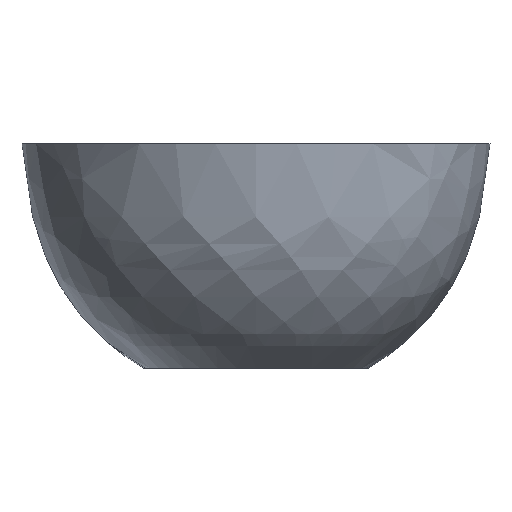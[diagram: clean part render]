
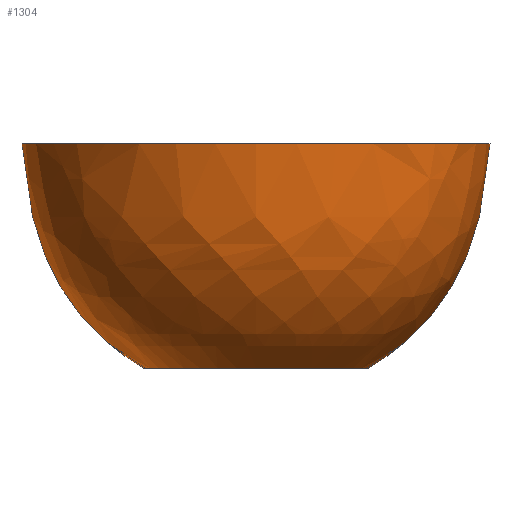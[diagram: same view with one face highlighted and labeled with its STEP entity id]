
A CAD part, left-side view. The second image highlights one B-rep face of the part: STEP entity #1304.
In plain terms, the highlighted free-form (B-spline) face has degree [3, 3] with [4, 4] control points.
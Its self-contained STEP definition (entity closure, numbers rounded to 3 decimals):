
#8 = DIRECTION ( 'NONE',  ( 0., 0., -1. ) ) ;
#15 = VERTEX_POINT ( 'NONE', #1899 ) ;
#57 = CARTESIAN_POINT ( 'NONE',  ( 0., 33.549, 116.158 ) ) ;
#91 = AXIS2_PLACEMENT_3D ( 'NONE', #1005, #1764, #272 ) ;
#122 = CARTESIAN_POINT ( 'NONE',  ( 0., 85.033, -121.941 ) ) ;
#129 = CARTESIAN_POINT ( 'NONE',  ( 0., 33.549, -116.158 ) ) ;
#136 = CARTESIAN_POINT ( 'NONE',  ( 0., 120., 125. ) ) ;
#271 = B_SPLINE_CURVE_WITH_KNOTS ( 'NONE', 3,
 ( #136, #876, #1498, #1786 ),
 .UNSPECIFIED., .F., .F.,
 ( 4, 4 ),
 ( 0., 1. ),
 .UNSPECIFIED. ) ;
#272 = DIRECTION ( 'NONE',  ( 0., 0., -1. ) ) ;
#408 = CARTESIAN_POINT ( 'NONE',  ( 0., 120., 125. ) ) ;
#477 = ORIENTED_EDGE ( 'NONE', *, *, #1662, .F. ) ;
#496 = CARTESIAN_POINT ( 'NONE',  ( 0., 85.033, -121.941 ) ) ;
#499 = CIRCLE ( 'NONE', #774, 60. ) ;
#504 = CARTESIAN_POINT ( 'NONE',  ( 250., 120., 125. ) ) ;
#533 = EDGE_CURVE ( 'NONE', #1041, #1588, #759, .T. ) ;
#634 = EDGE_CURVE ( 'NONE', #1456, #15, #499, .T. ) ;
#662 = CARTESIAN_POINT ( 'NONE',  ( 0., 33.549, -116.158 ) ) ;
#702 = ORIENTED_EDGE ( 'NONE', *, *, #842, .T. ) ;
#747 = DIRECTION ( 'NONE',  ( 0., -1., 0. ) ) ;
#759 = CIRCLE ( 'NONE', #91, 125. ) ;
#774 = AXIS2_PLACEMENT_3D ( 'NONE', #1800, #747, #8 ) ;
#794 = CARTESIAN_POINT ( 'NONE',  ( 0., 85.033, 121.941 ) ) ;
#809 = CARTESIAN_POINT ( 'NONE',  ( 0., 120., -125. ) ) ;
#825 = ORIENTED_EDGE ( 'NONE', *, *, #634, .F. ) ;
#842 = EDGE_CURVE ( 'NONE', #1588, #15, #271, .T. ) ;
#876 = CARTESIAN_POINT ( 'NONE',  ( 0., 85.033, 121.941 ) ) ;
#945 = CARTESIAN_POINT ( 'NONE',  ( 232.315, 33.549, 116.158 ) ) ;
#1005 = CARTESIAN_POINT ( 'NONE',  ( 0., 120., 0. ) ) ;
#1041 = VERTEX_POINT ( 'NONE', #1241 ) ;
#1042 = B_SPLINE_CURVE_WITH_KNOTS ( 'NONE', 3,
 ( #1455, #122, #129, #1616 ),
 .UNSPECIFIED., .F., .F.,
 ( 4, 4 ),
 ( 0., 1. ),
 .UNSPECIFIED. ) ;
#1116 = ORIENTED_EDGE ( 'NONE', *, *, #533, .T. ) ;
#1180 =( BOUNDED_SURFACE ( )  B_SPLINE_SURFACE ( 3, 3, ( 
 ( #809, #1403, #504, #1263 ),
 ( #496, #1704, #1417, #794 ),
 ( #662, #1715, #945, #57 ),
 ( #1545, #1709, #1844, #1560 ) ),
 .UNSPECIFIED., .F., .F., .F. ) 
 B_SPLINE_SURFACE_WITH_KNOTS ( ( 4, 4 ),
 ( 4, 4 ),
 ( 0., 1. ),
 ( 0., 1. ),
 .UNSPECIFIED. ) 
 GEOMETRIC_REPRESENTATION_ITEM ( )  RATIONAL_B_SPLINE_SURFACE ( (
 ( 1., 0.333, 0.333, 1.),
 ( 1., 0.333, 0.333, 1.),
 ( 1., 0.333, 0.333, 1.),
 ( 1., 0.333, 0.333, 1.) ) ) 
 REPRESENTATION_ITEM ( '' )  SURFACE ( )  );
#1241 = CARTESIAN_POINT ( 'NONE',  ( 0., 120., -125. ) ) ;
#1263 = CARTESIAN_POINT ( 'NONE',  ( 0., 120., 125. ) ) ;
#1304 = ADVANCED_FACE ( 'NONE', ( #1581 ), #1180, .F. ) ;
#1403 = CARTESIAN_POINT ( 'NONE',  ( 250., 120., -125. ) ) ;
#1417 = CARTESIAN_POINT ( 'NONE',  ( 243.882, 85.033, 121.941 ) ) ;
#1455 = CARTESIAN_POINT ( 'NONE',  ( 0., 120., -125. ) ) ;
#1456 = VERTEX_POINT ( 'NONE', #1533 ) ;
#1498 = CARTESIAN_POINT ( 'NONE',  ( 0., 33.549, 116.158 ) ) ;
#1533 = CARTESIAN_POINT ( 'NONE',  ( 0., 0., -60. ) ) ;
#1545 = CARTESIAN_POINT ( 'NONE',  ( 0., 0., -60. ) ) ;
#1560 = CARTESIAN_POINT ( 'NONE',  ( 0., 0., 60. ) ) ;
#1581 = FACE_OUTER_BOUND ( 'NONE', #1585, .T. ) ;
#1585 = EDGE_LOOP ( 'NONE', ( #477, #1116, #702, #825 ) ) ;
#1588 = VERTEX_POINT ( 'NONE', #408 ) ;
#1616 = CARTESIAN_POINT ( 'NONE',  ( 0., 0., -60. ) ) ;
#1662 = EDGE_CURVE ( 'NONE', #1041, #1456, #1042, .T. ) ;
#1704 = CARTESIAN_POINT ( 'NONE',  ( 243.882, 85.033, -121.941 ) ) ;
#1709 = CARTESIAN_POINT ( 'NONE',  ( 120., 0., -60. ) ) ;
#1715 = CARTESIAN_POINT ( 'NONE',  ( 232.315, 33.549, -116.158 ) ) ;
#1764 = DIRECTION ( 'NONE',  ( 0., -1., 0. ) ) ;
#1786 = CARTESIAN_POINT ( 'NONE',  ( 0., 0., 60. ) ) ;
#1800 = CARTESIAN_POINT ( 'NONE',  ( 0., 0., 0. ) ) ;
#1844 = CARTESIAN_POINT ( 'NONE',  ( 120., 0., 60. ) ) ;
#1899 = CARTESIAN_POINT ( 'NONE',  ( 0., 0., 60. ) ) ;
